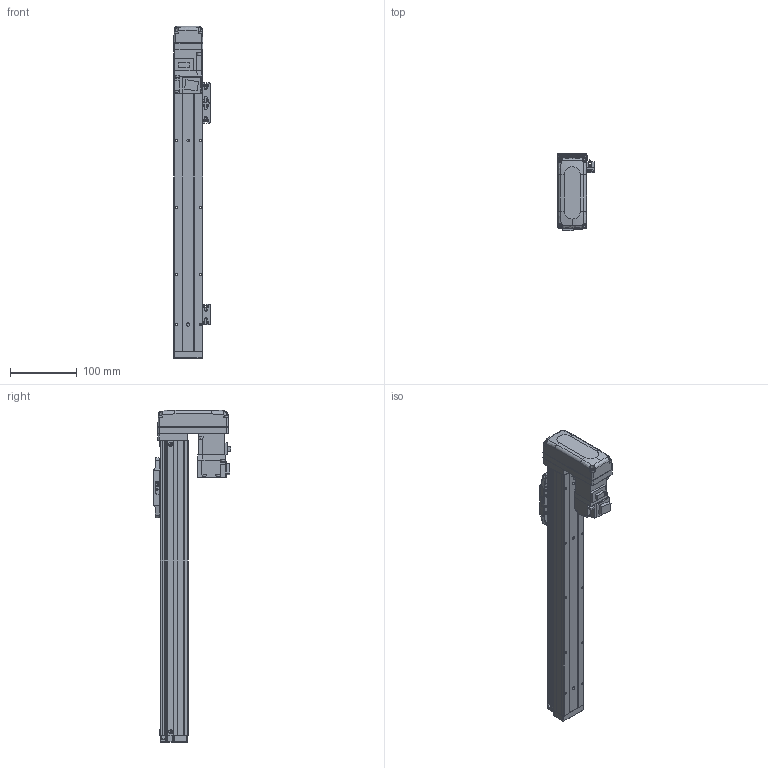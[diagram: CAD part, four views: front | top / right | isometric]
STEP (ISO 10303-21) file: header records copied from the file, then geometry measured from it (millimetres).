
FILE_DESCRIPTION (( 'STEP AP203' ), '1' );
FILE_NAME ('BTH40-300-BM-M05-C4.step', '2021-12-16T00:18:32', ( '微软用户' ), ( '微软中国' ), 'SwSTEP 2.0', 'SolidWorks 2020', '' );
FILE_SCHEMA (( 'CONFIG_CONTROL_DESIGN' ));
Length unit declared in the file: millimetre
Products named in the file (19): BTH40-013; BTH40-001-50_BTH40-001-300; BTH50-024; HG-KR13; BTH40-003; GBT 70.1-M3℅6; GBT 70.3-M3℅6; BTH40-006; GBT96.1-2002 3×0.8; BTH40-027-1; BTH-M3X5X6; BTH40-022; BTH50-026; GBT70.1-2000 M3×16; GBT 70.1-M2.5×6; BTH40-300-BM-M05-C4; BTH50-028; BTH40-004; BTH50-023
Assembly tree (47 placements, depth 2):
  BTH40-300-BM-M05-C4
    BTH40-001-50_BTH40-001-300
    BTH40-003
    BTH40-006
    BTH-M3X5X6  x8
    GBT70.1-2000 M3×16  x4
    BTH50-028  x2
    BTH50-023  x3
    BTH50-024  x3
    GBT 70.1-M3℅6  x6
    GBT96.1-2002 3×0.8  x6
    BTH40-022
    GBT 70.1-M2.5×6  x2
    BTH40-004
    BTH40-013
    HG-KR13
    GBT 70.3-M3℅6  x4
    BTH40-027-1
    BTH50-026
Bounding box: 55.2 x 115.8 x 496 mm (x, y, z)
Volume: 983369.7 mm3; surface area: 186484.3 mm2
Topology: 49 solids, 49 shells, 1975 faces, 4635 edges, 2850 vertices
Faces by surface type: plane 1052, cylinder 487, cone 270, torus 128, bspline 34, sphere 4
Entity records: 39395 total; most frequent: CARTESIAN_POINT 7546, DIRECTION 6168, ORIENTED_EDGE 5916, EDGE_CURVE 2958, AXIS2_PLACEMENT_3D 2107, VECTOR 1954, LINE 1954, VERTEX_POINT 1837
